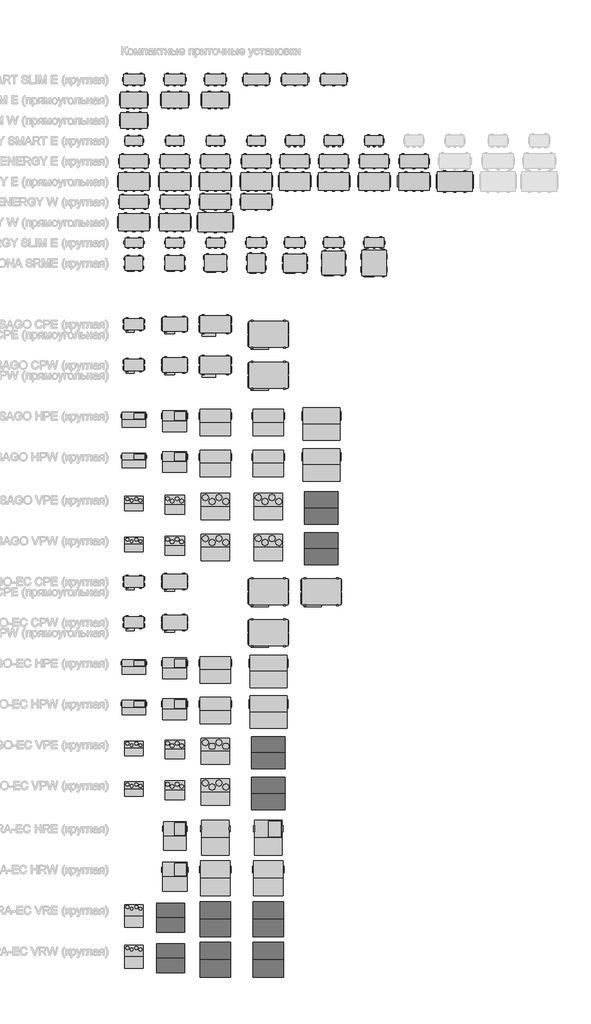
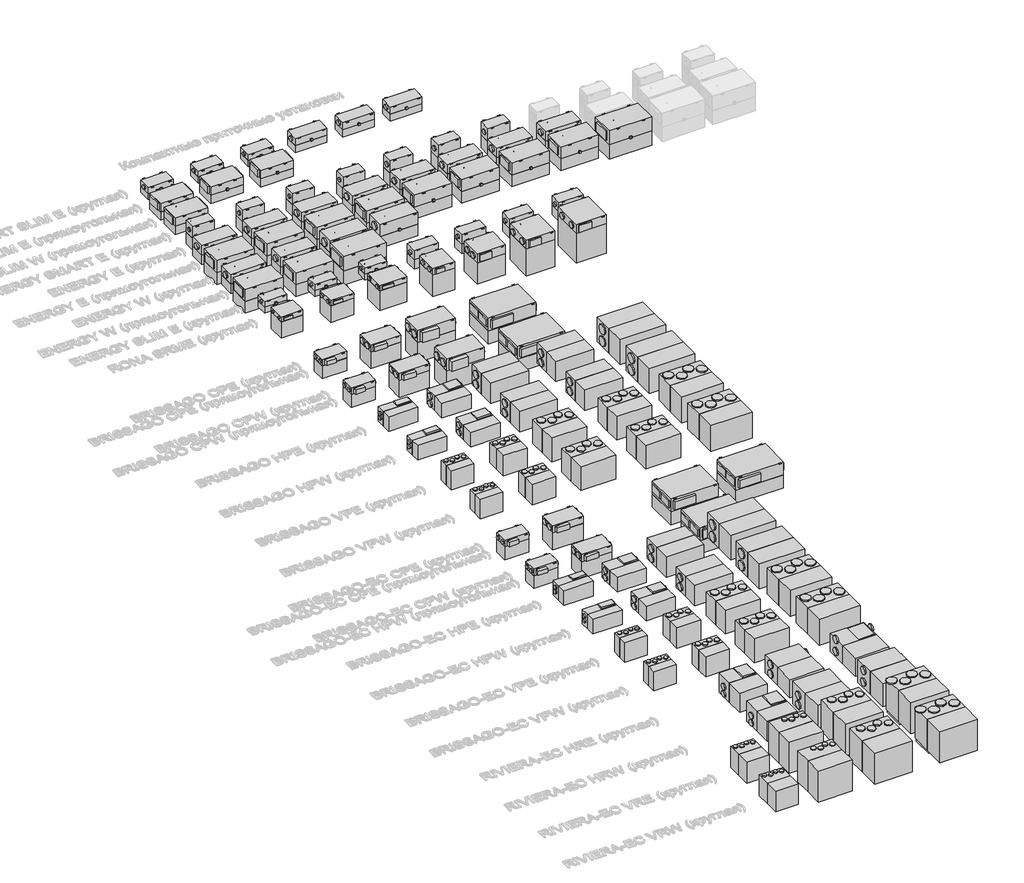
# One storey, part 1 of 28: 120 proxies.
"""IFC4 building model written with IfcOpenShell, lengths in millimetres."""

from ifc_helpers import new_model, si_unit, origin, place, context, project, spatial, transform, mapped, element, save
from components import mechanical_equipment_53d196b1, mechanical_equipment_57a579dd, mechanical_equipment_e5669056, mechanical_equipment_f87f4e95, mechanical_equipment_174d14ef, mechanical_equipment_83e87138, mechanical_equipment_9045a139, mechanical_equipment_a6caf436, mechanical_equipment_da869d93, mechanical_equipment_20e742c8, mechanical_equipment_f2c2758d, mechanical_equipment_004291be, mechanical_equipment_9406116b, mechanical_equipment_06ad50bb, mechanical_equipment_5558e5c0, mechanical_equipment_411f74db, mechanical_equipment_f99d62ba, mechanical_equipment_93a356b6, mechanical_equipment_433b63e0, mechanical_equipment_d0d0ea28, mechanical_equipment_e39d4b15, mechanical_equipment_af5c04b0, mechanical_equipment_fba3e411, mechanical_equipment_c8dcfe09, mechanical_equipment_7b883cb3, mechanical_equipment_9c104b6c, mechanical_equipment_83cae195, mechanical_equipment_fc167629, mechanical_equipment_29a00ad4, energy_e_2000_12_0_m1_ab2c2ec1, energy_e_4000_15_0_m1_56c008f9, energy_e_6000_22_5_m3_f49a07c8, energy_slim_500_e_1_2_b539ae45, energy_slim_800_e_12_0_e377578b, energy_smart_e_160_1_2_m1_94fbb1aa, energy_smart_e_200_3_0_m1_1592dbf7, energy_smart_slim_e_1100_15_0_m1_a4313444, energy_smart_slim_e_350_1_2_m1_bdb5f192, energy_smart_slim_e_700_2_4_m1_97cd10b6, energy_w_3000_m1_f00fbe06

model = new_model("IFC4")

# Units and contexts
model_context = context("Model", 3, world=origin())
ifc_project = project(units=[si_unit("LENGTHUNIT", "METRE", prefix="MILLI")], contexts=[model_context])

# Site, building, storey
site = spatial("IfcSite", under=ifc_project)
building = spatial("IfcBuilding", under=site)
storey = spatial("IfcBuildingStorey", under=building, Name="Уровень 1", Elevation=0.0)

# Proxies
placement = place(None, origin())
mechanical_equipment_shape = mechanical_equipment_53d196b1(model_context)
element("IfcBuildingElementProxy", 1, Name="ADSK_КПВУ RONA SRME_круглая : Rona SRME 180 H1", ObjectType="ADSK_КПВУ RONA SRME_круглая : Rona SRME 180 H1", at=placement, inside=storey, context=model_context, shape_type="MappedRepresentation", body=[
    mapped(mechanical_equipment_shape, transform((-20944.7242905, 13471.3067858, 0.0), x_axis=(1.0, 0.0, 0.0), y_axis=(0.0, 1.0, 0.0), z_axis=(0.0, 0.0, 1.0))),
])
mechanical_equipment_2_shape = mechanical_equipment_57a579dd(model_context)
element("IfcBuildingElementProxy", 2, Name="ADSK_КПВУ RONA SRME_круглая : Rona SRME 290 H1", ObjectType="ADSK_КПВУ RONA SRME_круглая : Rona SRME 290 H1", at=placement, inside=storey, context=model_context, shape_type="MappedRepresentation", body=[
    mapped(mechanical_equipment_2_shape, transform((-18944.7242905, 13471.3067858, 0.0), x_axis=(1.0, 0.0, 0.0), y_axis=(0.0, 1.0, 0.0), z_axis=(0.0, 0.0, 1.0))),
])
mechanical_equipment_3_shape = mechanical_equipment_e5669056(model_context)
element("IfcBuildingElementProxy", 3, Name="ADSK_КПВУ RONA SRME_круглая : Rona SRME 380 H1", ObjectType="ADSK_КПВУ RONA SRME_круглая : Rona SRME 380 H1", at=placement, inside=storey, context=model_context, shape_type="MappedRepresentation", body=[
    mapped(mechanical_equipment_3_shape, transform((-16944.7242905, 13471.3067858, 0.0), x_axis=(1.0, 0.0, 0.0), y_axis=(0.0, 1.0, 0.0), z_axis=(0.0, 0.0, 1.0))),
])
mechanical_equipment_4_shape = mechanical_equipment_f87f4e95(model_context)
element("IfcBuildingElementProxy", 4, Name="ADSK_КПВУ RONA SRME_круглая : Rona SRME 690 H1", ObjectType="ADSK_КПВУ RONA SRME_круглая : Rona SRME 690 H1", at=placement, inside=storey, context=model_context, shape_type="MappedRepresentation", body=[
    mapped(mechanical_equipment_4_shape, transform((-14944.7242905, 13471.3067858, 0.0), x_axis=(1.0, 0.0, 0.0), y_axis=(0.0, 1.0, 0.0), z_axis=(0.0, 0.0, 1.0))),
])
mechanical_equipment_5_shape = mechanical_equipment_174d14ef(model_context)
element("IfcBuildingElementProxy", 5, Name="ADSK_КПВУ RONA SRME_круглая : Rona SRME 910 H1", ObjectType="ADSK_КПВУ RONA SRME_круглая : Rona SRME 910 H1", at=placement, inside=storey, context=model_context, shape_type="MappedRepresentation", body=[
    mapped(mechanical_equipment_5_shape, transform((-13044.7242905, 13471.3067858, 0.0), x_axis=(1.0, 0.0, 0.0), y_axis=(0.0, 1.0, 0.0), z_axis=(0.0, 0.0, 1.0))),
])
mechanical_equipment_6_shape = mechanical_equipment_83e87138(model_context)
element("IfcBuildingElementProxy", 6, Name="ADSK_КПВУ RONA SRME_круглая : Rona SRME 1200 H1", ObjectType="ADSK_КПВУ RONA SRME_круглая : Rona SRME 1200 H1", at=placement, inside=storey, context=model_context, shape_type="MappedRepresentation", body=[
    mapped(mechanical_equipment_6_shape, transform((-11144.7242905, 13471.3067858, 0.0), x_axis=(1.0, 0.0, 0.0), y_axis=(0.0, 1.0, 0.0), z_axis=(0.0, 0.0, 1.0))),
])
mechanical_equipment_7_shape = mechanical_equipment_9045a139(model_context)
element("IfcBuildingElementProxy", 7, Name="ADSK_КПВУ RONA SRME_круглая : Rona SRME 1410 H1", ObjectType="ADSK_КПВУ RONA SRME_круглая : Rona SRME 1410 H1", at=placement, inside=storey, context=model_context, shape_type="MappedRepresentation", body=[
    mapped(mechanical_equipment_7_shape, transform((-9156.4750295, 13471.3067858, 0.0), x_axis=(1.0, 0.0, 0.0), y_axis=(0.0, 1.0, 0.0), z_axis=(0.0, 0.0, 1.0))),
])
mechanical_equipment_8_shape = mechanical_equipment_a6caf436(model_context)
element("IfcBuildingElementProxy", 8, Name="ADSK_КПВУ BRISSAGO CPE_прямоугольная : Brissago CPE 1500", ObjectType="ADSK_КПВУ BRISSAGO CPE_прямоугольная : Brissago CPE 1500", at=placement, inside=storey, context=model_context, shape_type="MappedRepresentation", body=[
    mapped(mechanical_equipment_8_shape, transform((-14344.7242905, 9971.3067858, 0.0), x_axis=(1.0, 0.0, 0.0), y_axis=(0.0, 1.0, 0.0), z_axis=(0.0, 0.0, 1.0))),
])
mechanical_equipment_9_shape = mechanical_equipment_da869d93(model_context)
element("IfcBuildingElementProxy", 9, Name="ADSK_КПВУ BRISSAGO CPE_круглая : Brissago CPE 450", ObjectType="ADSK_КПВУ BRISSAGO CPE_круглая : Brissago CPE 450", at=placement, inside=storey, context=model_context, shape_type="MappedRepresentation", body=[
    mapped(mechanical_equipment_9_shape, transform((-20944.7242905, 10471.3067858, 0.0), x_axis=(1.0, 0.0, 0.0), y_axis=(0.0, 1.0, 0.0), z_axis=(0.0, 0.0, 1.0))),
])
mechanical_equipment_10_shape = mechanical_equipment_20e742c8(model_context)
element("IfcBuildingElementProxy", 10, Name="ADSK_КПВУ BRISSAGO CPE_круглая : Brissago CPE 800", ObjectType="ADSK_КПВУ BRISSAGO CPE_круглая : Brissago CPE 800", at=placement, inside=storey, context=model_context, shape_type="MappedRepresentation", body=[
    mapped(mechanical_equipment_10_shape, transform((-18944.7242905, 10471.3067858, 0.0), x_axis=(1.0, 0.0, 0.0), y_axis=(0.0, 1.0, 0.0), z_axis=(0.0, 0.0, 1.0))),
])
mechanical_equipment_11_shape = mechanical_equipment_f2c2758d(model_context)
element("IfcBuildingElementProxy", 11, Name="ADSK_КПВУ BRISSAGO CPE_круглая : Brissago CPE 1000", ObjectType="ADSK_КПВУ BRISSAGO CPE_круглая : Brissago CPE 1000", at=placement, inside=storey, context=model_context, shape_type="MappedRepresentation", body=[
    mapped(mechanical_equipment_11_shape, transform((-16944.7242905, 10471.3067858, 0.0), x_axis=(1.0, 0.0, 0.0), y_axis=(0.0, 1.0, 0.0), z_axis=(0.0, 0.0, 1.0))),
])
element("IfcBuildingElementProxy", 12, Name="ADSK_КПВУ BRISSAGO CPW_прямоугольная : Brissago CPW 1500", ObjectType="ADSK_КПВУ BRISSAGO CPW_прямоугольная : Brissago CPW 1500", at=placement, inside=storey, context=model_context, shape_type="MappedRepresentation", body=[
    mapped(mechanical_equipment_8_shape, transform((-14344.7242905, 7971.2907411, 0.0), x_axis=(1.0, 0.0, 0.0), y_axis=(0.0, 1.0, 0.0), z_axis=(0.0, 0.0, 1.0))),
])
element("IfcBuildingElementProxy", 13, Name="ADSK_КПВУ BRISSAGO CPW_круглая : Brissago CPW 450", ObjectType="ADSK_КПВУ BRISSAGO CPW_круглая : Brissago CPW 450", at=placement, inside=storey, context=model_context, shape_type="MappedRepresentation", body=[
    mapped(mechanical_equipment_9_shape, transform((-20944.7242905, 8471.2907411, 0.0), x_axis=(1.0, 0.0, 0.0), y_axis=(0.0, 1.0, 0.0), z_axis=(0.0, 0.0, 1.0))),
])
element("IfcBuildingElementProxy", 14, Name="ADSK_КПВУ BRISSAGO CPW_круглая : Brissago CPW 800", ObjectType="ADSK_КПВУ BRISSAGO CPW_круглая : Brissago CPW 800", at=placement, inside=storey, context=model_context, shape_type="MappedRepresentation", body=[
    mapped(mechanical_equipment_10_shape, transform((-18944.7242905, 8471.2907411, 0.0), x_axis=(1.0, 0.0, 0.0), y_axis=(0.0, 1.0, 0.0), z_axis=(0.0, 0.0, 1.0))),
])
element("IfcBuildingElementProxy", 15, Name="ADSK_КПВУ BRISSAGO CPW_круглая : Brissago CPW 1000", ObjectType="ADSK_КПВУ BRISSAGO CPW_круглая : Brissago CPW 1000", at=placement, inside=storey, context=model_context, shape_type="MappedRepresentation", body=[
    mapped(mechanical_equipment_11_shape, transform((-16944.7242905, 8471.2907411, 0.0), x_axis=(1.0, 0.0, 0.0), y_axis=(0.0, 1.0, 0.0), z_axis=(0.0, 0.0, 1.0))),
])
mechanical_equipment_12_shape = mechanical_equipment_004291be(model_context)
element("IfcBuildingElementProxy", 16, Name="ADSK_КПВУ BRISSAGO HPW_круглая : Brissago HPW 450", ObjectType="ADSK_КПВУ BRISSAGO HPW_круглая : Brissago HPW 450", at=placement, inside=storey, context=model_context, shape_type="MappedRepresentation", body=[
    mapped(mechanical_equipment_12_shape, transform((-20944.7242905, 3971.3067858, 0.0), x_axis=(1.0, 0.0, 0.0), y_axis=(0.0, 1.0, 0.0), z_axis=(0.0, 0.0, 1.0))),
])
mechanical_equipment_13_shape = mechanical_equipment_9406116b(model_context)
element("IfcBuildingElementProxy", 17, Name="ADSK_КПВУ BRISSAGO HPW_круглая : Brissago HPW 800", ObjectType="ADSK_КПВУ BRISSAGO HPW_круглая : Brissago HPW 800", at=placement, inside=storey, context=model_context, shape_type="MappedRepresentation", body=[
    mapped(mechanical_equipment_13_shape, transform((-18944.7242905, 3971.3067858, 0.0), x_axis=(1.0, 0.0, 0.0), y_axis=(0.0, 1.0, 0.0), z_axis=(0.0, 0.0, 1.0))),
])
mechanical_equipment_14_shape = mechanical_equipment_06ad50bb(model_context)
element("IfcBuildingElementProxy", 18, Name="ADSK_КПВУ BRISSAGO HPW_круглая : Brissago HPW 1000", ObjectType="ADSK_КПВУ BRISSAGO HPW_круглая : Brissago HPW 1000", at=placement, inside=storey, context=model_context, shape_type="MappedRepresentation", body=[
    mapped(mechanical_equipment_14_shape, transform((-16944.7242905, 3971.3067858, 0.0), x_axis=(1.0, 0.0, 0.0), y_axis=(0.0, 1.0, 0.0), z_axis=(0.0, 0.0, 1.0))),
])
element("IfcBuildingElementProxy", 19, Name="ADSK_КПВУ BRISSAGO HPW_круглая : Brissago HPW 1500", ObjectType="ADSK_КПВУ BRISSAGO HPW_круглая : Brissago HPW 1500", at=placement, inside=storey, context=model_context, shape_type="MappedRepresentation", body=[
    mapped(mechanical_equipment_14_shape, transform((-14344.7242905, 3971.3067858, 0.0), x_axis=(1.0, 0.0, 0.0), y_axis=(0.0, 1.0, 0.0), z_axis=(0.0, 0.0, 1.0))),
])
mechanical_equipment_15_shape = mechanical_equipment_5558e5c0(model_context)
element("IfcBuildingElementProxy", 20, Name="ADSK_КПВУ BRISSAGO HPW_круглая : Brissago HPW 2000", ObjectType="ADSK_КПВУ BRISSAGO HPW_круглая : Brissago HPW 2000", at=placement, inside=storey, context=model_context, shape_type="MappedRepresentation", body=[
    mapped(mechanical_equipment_15_shape, transform((-11744.7242905, 3971.3067858, 0.0), x_axis=(1.0, 0.0, 0.0), y_axis=(0.0, 1.0, 0.0), z_axis=(0.0, 0.0, 1.0))),
])
element("IfcBuildingElementProxy", 21, Name="ADSK_КПВУ BRISSAGO HPE_круглая : Brissago HPE 450", ObjectType="ADSK_КПВУ BRISSAGO HPE_круглая : Brissago HPE 450", at=placement, inside=storey, context=model_context, shape_type="MappedRepresentation", body=[
    mapped(mechanical_equipment_12_shape, transform((-20944.7242905, 5971.3067858, 0.0), x_axis=(1.0, 0.0, 0.0), y_axis=(0.0, 1.0, 0.0), z_axis=(0.0, 0.0, 1.0))),
])
element("IfcBuildingElementProxy", 22, Name="ADSK_КПВУ BRISSAGO HPE_круглая : Brissago HPE 800", ObjectType="ADSK_КПВУ BRISSAGO HPE_круглая : Brissago HPE 800", at=placement, inside=storey, context=model_context, shape_type="MappedRepresentation", body=[
    mapped(mechanical_equipment_13_shape, transform((-18944.7242905, 5971.3067858, 0.0), x_axis=(1.0, 0.0, 0.0), y_axis=(0.0, 1.0, 0.0), z_axis=(0.0, 0.0, 1.0))),
])
element("IfcBuildingElementProxy", 23, Name="ADSK_КПВУ BRISSAGO HPE_круглая : Brissago HPE 1000", ObjectType="ADSK_КПВУ BRISSAGO HPE_круглая : Brissago HPE 1000", at=placement, inside=storey, context=model_context, shape_type="MappedRepresentation", body=[
    mapped(mechanical_equipment_14_shape, transform((-16944.7242905, 5971.3067858, 0.0), x_axis=(1.0, 0.0, 0.0), y_axis=(0.0, 1.0, 0.0), z_axis=(0.0, 0.0, 1.0))),
])
element("IfcBuildingElementProxy", 24, Name="ADSK_КПВУ BRISSAGO HPE_круглая : Brissago HPE 1500", ObjectType="ADSK_КПВУ BRISSAGO HPE_круглая : Brissago HPE 1500", at=placement, inside=storey, context=model_context, shape_type="MappedRepresentation", body=[
    mapped(mechanical_equipment_14_shape, transform((-14344.7242905, 5971.3067858, 0.0), x_axis=(1.0, 0.0, 0.0), y_axis=(0.0, 1.0, 0.0), z_axis=(0.0, 0.0, 1.0))),
])
element("IfcBuildingElementProxy", 25, Name="ADSK_КПВУ BRISSAGO HPE_круглая : Brissago HPE 2000", ObjectType="ADSK_КПВУ BRISSAGO HPE_круглая : Brissago HPE 2000", at=placement, inside=storey, context=model_context, shape_type="MappedRepresentation", body=[
    mapped(mechanical_equipment_15_shape, transform((-11744.7242905, 5971.3067858, 0.0), x_axis=(1.0, 0.0, 0.0), y_axis=(0.0, 1.0, 0.0), z_axis=(0.0, 0.0, 1.0))),
])
mechanical_equipment_16_shape = mechanical_equipment_411f74db(model_context)
element("IfcBuildingElementProxy", 26, Name="ADSK_КПВУ BRISSAGO VPW_круглая : Brissago VPW 450", ObjectType="ADSK_КПВУ BRISSAGO VPW_круглая : Brissago VPW 450", at=placement, inside=storey, context=model_context, shape_type="MappedRepresentation", body=[
    mapped(mechanical_equipment_16_shape, transform((-20944.7242905, -148.6932142, 0.0), x_axis=(1.0, 0.0, 0.0), y_axis=(0.0, 1.0, 0.0), z_axis=(0.0, 0.0, 1.0))),
])
mechanical_equipment_17_shape = mechanical_equipment_f99d62ba(model_context)
element("IfcBuildingElementProxy", 27, Name="ADSK_КПВУ BRISSAGO VPW_круглая : Brissago VPW 800", ObjectType="ADSK_КПВУ BRISSAGO VPW_круглая : Brissago VPW 800", at=placement, inside=storey, context=model_context, shape_type="MappedRepresentation", body=[
    mapped(mechanical_equipment_17_shape, transform((-18944.7242905, -148.6932142, 0.0), x_axis=(1.0, 0.0, 0.0), y_axis=(0.0, 1.0, 0.0), z_axis=(0.0, 0.0, 1.0))),
])
mechanical_equipment_18_shape = mechanical_equipment_93a356b6(model_context)
element("IfcBuildingElementProxy", 28, Name="ADSK_КПВУ BRISSAGO VPW_круглая : Brissago VPW 1000", ObjectType="ADSK_КПВУ BRISSAGO VPW_круглая : Brissago VPW 1000", at=placement, inside=storey, context=model_context, shape_type="MappedRepresentation", body=[
    mapped(mechanical_equipment_18_shape, transform((-16944.7242905, -148.6932142, 0.0), x_axis=(1.0, 0.0, 0.0), y_axis=(0.0, 1.0, 0.0), z_axis=(0.0, 0.0, 1.0))),
])
element("IfcBuildingElementProxy", 29, Name="ADSK_КПВУ BRISSAGO VPW_круглая : Brissago VPW 1500", ObjectType="ADSK_КПВУ BRISSAGO VPW_круглая : Brissago VPW 1500", at=placement, inside=storey, context=model_context, shape_type="MappedRepresentation", body=[
    mapped(mechanical_equipment_18_shape, transform((-14344.7242905, -148.6932142, 0.0), x_axis=(1.0, 0.0, 0.0), y_axis=(0.0, 1.0, 0.0), z_axis=(0.0, 0.0, 1.0))),
])
mechanical_equipment_19_shape = mechanical_equipment_433b63e0(model_context)
element("IfcBuildingElementProxy", 30, Name="ADSK_КПВУ BRISSAGO VPW_круглая : Brissago VPW 2000", ObjectType="ADSK_КПВУ BRISSAGO VPW_круглая : Brissago VPW 2000", at=placement, inside=storey, context=model_context, shape_type="MappedRepresentation", body=[
    mapped(mechanical_equipment_19_shape, transform((-11744.7242905, -148.6932142, 0.0), x_axis=(1.0, 0.0, 0.0), y_axis=(0.0, 1.0, 0.0), z_axis=(0.0, 0.0, 1.0))),
])
element("IfcBuildingElementProxy", 31, Name="ADSK_КПВУ BRISSAGO VPE_круглая : Brissago VPE 450", ObjectType="ADSK_КПВУ BRISSAGO VPE_круглая : Brissago VPE 450", at=placement, inside=storey, context=model_context, shape_type="MappedRepresentation", body=[
    mapped(mechanical_equipment_16_shape, transform((-20944.7242905, 1851.3067858, 0.0), x_axis=(1.0, 0.0, 0.0), y_axis=(0.0, 1.0, 0.0), z_axis=(0.0, 0.0, 1.0))),
])
element("IfcBuildingElementProxy", 32, Name="ADSK_КПВУ BRISSAGO VPE_круглая : Brissago VPE 800", ObjectType="ADSK_КПВУ BRISSAGO VPE_круглая : Brissago VPE 800", at=placement, inside=storey, context=model_context, shape_type="MappedRepresentation", body=[
    mapped(mechanical_equipment_17_shape, transform((-18944.7242905, 1851.3067858, 0.0), x_axis=(1.0, 0.0, 0.0), y_axis=(0.0, 1.0, 0.0), z_axis=(0.0, 0.0, 1.0))),
])
element("IfcBuildingElementProxy", 33, Name="ADSK_КПВУ BRISSAGO VPE_круглая : Brissago VPE 1000", ObjectType="ADSK_КПВУ BRISSAGO VPE_круглая : Brissago VPE 1000", at=placement, inside=storey, context=model_context, shape_type="MappedRepresentation", body=[
    mapped(mechanical_equipment_18_shape, transform((-16944.7242905, 1851.3067858, 0.0), x_axis=(1.0, 0.0, 0.0), y_axis=(0.0, 1.0, 0.0), z_axis=(0.0, 0.0, 1.0))),
])
element("IfcBuildingElementProxy", 34, Name="ADSK_КПВУ BRISSAGO VPE_круглая : Brissago VPE 1500", ObjectType="ADSK_КПВУ BRISSAGO VPE_круглая : Brissago VPE 1500", at=placement, inside=storey, context=model_context, shape_type="MappedRepresentation", body=[
    mapped(mechanical_equipment_18_shape, transform((-14344.7242905, 1851.3067858, 0.0), x_axis=(1.0, 0.0, 0.0), y_axis=(0.0, 1.0, 0.0), z_axis=(0.0, 0.0, 1.0))),
])
element("IfcBuildingElementProxy", 35, Name="ADSK_КПВУ BRISSAGO VPE_круглая : Brissago VPE 2000", ObjectType="ADSK_КПВУ BRISSAGO VPE_круглая : Brissago VPE 2000", at=placement, inside=storey, context=model_context, shape_type="MappedRepresentation", body=[
    mapped(mechanical_equipment_19_shape, transform((-11744.7242905, 1851.3067858, 0.0), x_axis=(1.0, 0.0, 0.0), y_axis=(0.0, 1.0, 0.0), z_axis=(0.0, 0.0, 1.0))),
])
element("IfcBuildingElementProxy", 36, Name="ADSK_КПВУ BRISSAGO-EC CPE_прямоугольная : Brissago-EC CPE 1400", ObjectType="ADSK_КПВУ BRISSAGO-EC CPE_прямоугольная : Brissago-EC CPE 1400", at=placement, inside=storey, context=model_context, shape_type="MappedRepresentation", body=[
    mapped(mechanical_equipment_8_shape, transform((-14344.7242905, -2648.6932142, 0.0), x_axis=(1.0, 0.0, 0.0), y_axis=(0.0, 1.0, 0.0), z_axis=(0.0, 0.0, 1.0))),
])
element("IfcBuildingElementProxy", 37, Name="ADSK_КПВУ BRISSAGO-EC CPE_прямоугольная : Brissago-EC CPE 2200", ObjectType="ADSK_КПВУ BRISSAGO-EC CPE_прямоугольная : Brissago-EC CPE 2200", at=placement, inside=storey, context=model_context, shape_type="MappedRepresentation", body=[
    mapped(mechanical_equipment_8_shape, transform((-11744.7242905, -2648.6932142, 0.0), x_axis=(1.0, 0.0, 0.0), y_axis=(0.0, 1.0, 0.0), z_axis=(0.0, 0.0, 1.0))),
])
element("IfcBuildingElementProxy", 38, Name="ADSK_КПВУ BRISSAGO-EC CPE_круглая : Brissago-EC CPE 450", ObjectType="ADSK_КПВУ BRISSAGO-EC CPE_круглая : Brissago-EC CPE 450", at=placement, inside=storey, context=model_context, shape_type="MappedRepresentation", body=[
    mapped(mechanical_equipment_9_shape, transform((-20944.7242905, -2148.6932142, 0.0), x_axis=(1.0, 0.0, 0.0), y_axis=(0.0, 1.0, 0.0), z_axis=(0.0, 0.0, 1.0))),
])
element("IfcBuildingElementProxy", 39, Name="ADSK_КПВУ BRISSAGO-EC CPE_круглая : Brissago-EC CPE 850", ObjectType="ADSK_КПВУ BRISSAGO-EC CPE_круглая : Brissago-EC CPE 850", at=placement, inside=storey, context=model_context, shape_type="MappedRepresentation", body=[
    mapped(mechanical_equipment_10_shape, transform((-18944.7242905, -2148.6932142, 0.0), x_axis=(1.0, 0.0, 0.0), y_axis=(0.0, 1.0, 0.0), z_axis=(0.0, 0.0, 1.0))),
])
element("IfcBuildingElementProxy", 40, Name="ADSK_КПВУ BRISSAGO-EC HPW_круглая : Brissago-EC HPW 450", ObjectType="ADSK_КПВУ BRISSAGO-EC HPW_круглая : Brissago-EC HPW 450", at=placement, inside=storey, context=model_context, shape_type="MappedRepresentation", body=[
    mapped(mechanical_equipment_12_shape, transform((-20944.7242905, -8148.7092589, 0.0), x_axis=(1.0, 0.0, 0.0), y_axis=(0.0, 1.0, 0.0), z_axis=(0.0, 0.0, 1.0))),
])
element("IfcBuildingElementProxy", 41, Name="ADSK_КПВУ BRISSAGO-EC HPW_круглая : Brissago-EC HPW 850", ObjectType="ADSK_КПВУ BRISSAGO-EC HPW_круглая : Brissago-EC HPW 850", at=placement, inside=storey, context=model_context, shape_type="MappedRepresentation", body=[
    mapped(mechanical_equipment_13_shape, transform((-18944.7242905, -8148.7092589, 0.0), x_axis=(1.0, 0.0, 0.0), y_axis=(0.0, 1.0, 0.0), z_axis=(0.0, 0.0, 1.0))),
])
element("IfcBuildingElementProxy", 42, Name="ADSK_КПВУ BRISSAGO-EC HPW_круглая : Brissago-EC HPW 1400", ObjectType="ADSK_КПВУ BRISSAGO-EC HPW_круглая : Brissago-EC HPW 1400", at=placement, inside=storey, context=model_context, shape_type="MappedRepresentation", body=[
    mapped(mechanical_equipment_14_shape, transform((-16944.7242905, -8148.7092589, 0.0), x_axis=(1.0, 0.0, 0.0), y_axis=(0.0, 1.0, 0.0), z_axis=(0.0, 0.0, 1.0))),
])
element("IfcBuildingElementProxy", 43, Name="ADSK_КПВУ BRISSAGO-EC HPW_круглая : Brissago-EC HPW 2200", ObjectType="ADSK_КПВУ BRISSAGO-EC HPW_круглая : Brissago-EC HPW 2200", at=placement, inside=storey, context=model_context, shape_type="MappedRepresentation", body=[
    mapped(mechanical_equipment_15_shape, transform((-14344.7242905, -8148.7092589, 0.0), x_axis=(1.0, 0.0, 0.0), y_axis=(0.0, 1.0, 0.0), z_axis=(0.0, 0.0, 1.0))),
])
element("IfcBuildingElementProxy", 44, Name="ADSK_КПВУ BRISSAGO-EC HPE_круглая : Brissago-EC HPE 450", ObjectType="ADSK_КПВУ BRISSAGO-EC HPE_круглая : Brissago-EC HPE 450", at=placement, inside=storey, context=model_context, shape_type="MappedRepresentation", body=[
    mapped(mechanical_equipment_12_shape, transform((-20944.7242905, -6148.7092589, 0.0), x_axis=(1.0, 0.0, 0.0), y_axis=(0.0, 1.0, 0.0), z_axis=(0.0, 0.0, 1.0))),
])
element("IfcBuildingElementProxy", 45, Name="ADSK_КПВУ BRISSAGO-EC HPE_круглая : Brissago-EC HPE 850", ObjectType="ADSK_КПВУ BRISSAGO-EC HPE_круглая : Brissago-EC HPE 850", at=placement, inside=storey, context=model_context, shape_type="MappedRepresentation", body=[
    mapped(mechanical_equipment_13_shape, transform((-18944.7242905, -6148.7092589, 0.0), x_axis=(1.0, 0.0, 0.0), y_axis=(0.0, 1.0, 0.0), z_axis=(0.0, 0.0, 1.0))),
])
element("IfcBuildingElementProxy", 46, Name="ADSK_КПВУ BRISSAGO-EC HPE_круглая : Brissago-EC HPE 1400", ObjectType="ADSK_КПВУ BRISSAGO-EC HPE_круглая : Brissago-EC HPE 1400", at=placement, inside=storey, context=model_context, shape_type="MappedRepresentation", body=[
    mapped(mechanical_equipment_14_shape, transform((-16944.7242905, -6148.7092589, 0.0), x_axis=(1.0, 0.0, 0.0), y_axis=(0.0, 1.0, 0.0), z_axis=(0.0, 0.0, 1.0))),
])
element("IfcBuildingElementProxy", 47, Name="ADSK_КПВУ BRISSAGO-EC HPE_круглая : Brissago-EC HPE 2200", ObjectType="ADSK_КПВУ BRISSAGO-EC HPE_круглая : Brissago-EC HPE 2200", at=placement, inside=storey, context=model_context, shape_type="MappedRepresentation", body=[
    mapped(mechanical_equipment_15_shape, transform((-14344.7242905, -6148.7092589, 0.0), x_axis=(1.0, 0.0, 0.0), y_axis=(0.0, 1.0, 0.0), z_axis=(0.0, 0.0, 1.0))),
])
element("IfcBuildingElementProxy", 48, Name="ADSK_КПВУ BRISSAGO-EC CPW_прямоугольная : Brissago-EC CPW 1400", ObjectType="ADSK_КПВУ BRISSAGO-EC CPW_прямоугольная : Brissago-EC CPW 1400", at=placement, inside=storey, context=model_context, shape_type="MappedRepresentation", body=[
    mapped(mechanical_equipment_8_shape, transform((-14344.7242905, -4648.7092589, 0.0), x_axis=(1.0, 0.0, 0.0), y_axis=(0.0, 1.0, 0.0), z_axis=(0.0, 0.0, 1.0))),
])
element("IfcBuildingElementProxy", 49, Name="ADSK_КПВУ BRISSAGO-EC CPW_круглая : Brissago-EC CPW 450", ObjectType="ADSK_КПВУ BRISSAGO-EC CPW_круглая : Brissago-EC CPW 450", at=placement, inside=storey, context=model_context, shape_type="MappedRepresentation", body=[
    mapped(mechanical_equipment_9_shape, transform((-20944.7242905, -4148.7092589, 0.0), x_axis=(1.0, 0.0, 0.0), y_axis=(0.0, 1.0, 0.0), z_axis=(0.0, 0.0, 1.0))),
])
element("IfcBuildingElementProxy", 50, Name="ADSK_КПВУ BRISSAGO-EC CPW_круглая : Brissago-EC CPW 850", ObjectType="ADSK_КПВУ BRISSAGO-EC CPW_круглая : Brissago-EC CPW 850", at=placement, inside=storey, context=model_context, shape_type="MappedRepresentation", body=[
    mapped(mechanical_equipment_10_shape, transform((-18944.7242905, -4148.7092589, 0.0), x_axis=(1.0, 0.0, 0.0), y_axis=(0.0, 1.0, 0.0), z_axis=(0.0, 0.0, 1.0))),
])
element("IfcBuildingElementProxy", 51, Name="ADSK_КПВУ BRISSAGO-EC VPW_круглая : Brissago-EC VPW 450", ObjectType="ADSK_КПВУ BRISSAGO-EC VPW_круглая : Brissago-EC VPW 450", at=placement, inside=storey, context=model_context, shape_type="MappedRepresentation", body=[
    mapped(mechanical_equipment_16_shape, transform((-20944.7242905, -12148.7253035, 0.0), x_axis=(1.0, 0.0, 0.0), y_axis=(0.0, 1.0, 0.0), z_axis=(0.0, 0.0, 1.0))),
])
element("IfcBuildingElementProxy", 52, Name="ADSK_КПВУ BRISSAGO-EC VPW_круглая : Brissago-EC VPW 800", ObjectType="ADSK_КПВУ BRISSAGO-EC VPW_круглая : Brissago-EC VPW 800", at=placement, inside=storey, context=model_context, shape_type="MappedRepresentation", body=[
    mapped(mechanical_equipment_17_shape, transform((-18944.7242905, -12148.7253035, 0.0), x_axis=(1.0, 0.0, 0.0), y_axis=(0.0, 1.0, 0.0), z_axis=(0.0, 0.0, 1.0))),
])
element("IfcBuildingElementProxy", 53, Name="ADSK_КПВУ BRISSAGO-EC VPW_круглая : Brissago-EC VPW 1500", ObjectType="ADSK_КПВУ BRISSAGO-EC VPW_круглая : Brissago-EC VPW 1500", at=placement, inside=storey, context=model_context, shape_type="MappedRepresentation", body=[
    mapped(mechanical_equipment_18_shape, transform((-16944.7242905, -12148.7253035, 0.0), x_axis=(1.0, 0.0, 0.0), y_axis=(0.0, 1.0, 0.0), z_axis=(0.0, 0.0, 1.0))),
])
element("IfcBuildingElementProxy", 54, Name="ADSK_КПВУ BRISSAGO-EC VPW_круглая : Brissago-EC VPW 2000", ObjectType="ADSK_КПВУ BRISSAGO-EC VPW_круглая : Brissago-EC VPW 2000", at=placement, inside=storey, context=model_context, shape_type="MappedRepresentation", body=[
    mapped(mechanical_equipment_19_shape, transform((-14344.7242905, -12148.7253035, 0.0), x_axis=(1.0, 0.0, 0.0), y_axis=(0.0, 1.0, 0.0), z_axis=(0.0, 0.0, 1.0))),
])
element("IfcBuildingElementProxy", 55, Name="ADSK_КПВУ BRISSAGO-EC VPE_круглая : Brissago-EC VPE 450", ObjectType="ADSK_КПВУ BRISSAGO-EC VPE_круглая : Brissago-EC VPE 450", at=placement, inside=storey, context=model_context, shape_type="MappedRepresentation", body=[
    mapped(mechanical_equipment_16_shape, transform((-20944.7242905, -10148.7092589, 0.0), x_axis=(1.0, 0.0, 0.0), y_axis=(0.0, 1.0, 0.0), z_axis=(0.0, 0.0, 1.0))),
])
element("IfcBuildingElementProxy", 56, Name="ADSK_КПВУ BRISSAGO-EC VPE_круглая : Brissago-EC VPE 800", ObjectType="ADSK_КПВУ BRISSAGO-EC VPE_круглая : Brissago-EC VPE 800", at=placement, inside=storey, context=model_context, shape_type="MappedRepresentation", body=[
    mapped(mechanical_equipment_17_shape, transform((-18944.7242905, -10148.7092589, 0.0), x_axis=(1.0, 0.0, 0.0), y_axis=(0.0, 1.0, 0.0), z_axis=(0.0, 0.0, 1.0))),
])
element("IfcBuildingElementProxy", 57, Name="ADSK_КПВУ BRISSAGO-EC VPE_круглая : Brissago-EC VPE 1500", ObjectType="ADSK_КПВУ BRISSAGO-EC VPE_круглая : Brissago-EC VPE 1500", at=placement, inside=storey, context=model_context, shape_type="MappedRepresentation", body=[
    mapped(mechanical_equipment_18_shape, transform((-16944.7242905, -10148.7092589, 0.0), x_axis=(1.0, 0.0, 0.0), y_axis=(0.0, 1.0, 0.0), z_axis=(0.0, 0.0, 1.0))),
])
element("IfcBuildingElementProxy", 58, Name="ADSK_КПВУ BRISSAGO-EC VPE_круглая : Brissago-EC VPE 2000", ObjectType="ADSK_КПВУ BRISSAGO-EC VPE_круглая : Brissago-EC VPE 2000", at=placement, inside=storey, context=model_context, shape_type="MappedRepresentation", body=[
    mapped(mechanical_equipment_19_shape, transform((-14344.7242905, -10148.7092589, 0.0), x_axis=(1.0, 0.0, 0.0), y_axis=(0.0, 1.0, 0.0), z_axis=(0.0, 0.0, 1.0))),
])
mechanical_equipment_20_shape = mechanical_equipment_d0d0ea28(model_context)
element("IfcBuildingElementProxy", 59, Name="ADSK_КПВУ RIVIERA-EC VRE_круглая : Riviera-EC VRE 450", ObjectType="ADSK_КПВУ RIVIERA-EC VRE_круглая : Riviera-EC VRE 450", at=placement, inside=storey, context=model_context, shape_type="MappedRepresentation", body=[
    mapped(mechanical_equipment_20_shape, transform((-20944.7242905, -18268.7413481, 0.0), x_axis=(1.0, 0.0, 0.0), y_axis=(0.0, 1.0, 0.0), z_axis=(0.0, 0.0, 1.0))),
])
mechanical_equipment_21_shape = mechanical_equipment_e39d4b15(model_context)
element("IfcBuildingElementProxy", 60, Name="ADSK_КПВУ RIVIERA-EC VRE_круглая : Riviera-EC VRE 850", ObjectType="ADSK_КПВУ RIVIERA-EC VRE_круглая : Riviera-EC VRE 850", at=placement, inside=storey, context=model_context, shape_type="MappedRepresentation", body=[
    mapped(mechanical_equipment_21_shape, transform((-19144.7242905, -18268.7413481, 0.0), x_axis=(1.0, 0.0, 0.0), y_axis=(0.0, 1.0, 0.0), z_axis=(0.0, 0.0, 1.0))),
])
mechanical_equipment_22_shape = mechanical_equipment_af5c04b0(model_context)
element("IfcBuildingElementProxy", 61, Name="ADSK_КПВУ RIVIERA-EC VRE_круглая : Riviera-EC VRE 1400", ObjectType="ADSK_КПВУ RIVIERA-EC VRE_круглая : Riviera-EC VRE 1400", at=placement, inside=storey, context=model_context, shape_type="MappedRepresentation", body=[
    mapped(mechanical_equipment_22_shape, transform((-16944.7242905, -18268.7413481, 0.0), x_axis=(1.0, 0.0, 0.0), y_axis=(0.0, 1.0, 0.0), z_axis=(0.0, 0.0, 1.0))),
])
mechanical_equipment_23_shape = mechanical_equipment_fba3e411(model_context)
element("IfcBuildingElementProxy", 62, Name="ADSK_КПВУ RIVIERA-EC VRE_круглая : Riviera-EC VRE 2200", ObjectType="ADSK_КПВУ RIVIERA-EC VRE_круглая : Riviera-EC VRE 2200", at=placement, inside=storey, context=model_context, shape_type="MappedRepresentation", body=[
    mapped(mechanical_equipment_23_shape, transform((-14344.7242905, -18268.7413481, 0.0), x_axis=(1.0, 0.0, 0.0), y_axis=(0.0, 1.0, 0.0), z_axis=(0.0, 0.0, 1.0))),
])
element("IfcBuildingElementProxy", 63, Name="ADSK_КПВУ RIVIERA-EC VRW_круглая : Riviera-EC VRW 450", ObjectType="ADSK_КПВУ RIVIERA-EC VRW_круглая : Riviera-EC VRW 450", at=placement, inside=storey, context=model_context, shape_type="MappedRepresentation", body=[
    mapped(mechanical_equipment_20_shape, transform((-20944.7242905, -20268.7413481, 0.0), x_axis=(1.0, 0.0, 0.0), y_axis=(0.0, 1.0, 0.0), z_axis=(0.0, 0.0, 1.0))),
])
element("IfcBuildingElementProxy", 64, Name="ADSK_КПВУ RIVIERA-EC VRW_круглая : Riviera-EC VRW 850", ObjectType="ADSK_КПВУ RIVIERA-EC VRW_круглая : Riviera-EC VRW 850", at=placement, inside=storey, context=model_context, shape_type="MappedRepresentation", body=[
    mapped(mechanical_equipment_21_shape, transform((-19144.7242905, -20268.7413481, 0.0), x_axis=(1.0, 0.0, 0.0), y_axis=(0.0, 1.0, 0.0), z_axis=(0.0, 0.0, 1.0))),
])
element("IfcBuildingElementProxy", 65, Name="ADSK_КПВУ RIVIERA-EC VRW_круглая : Riviera-EC VRW 1400", ObjectType="ADSK_КПВУ RIVIERA-EC VRW_круглая : Riviera-EC VRW 1400", at=placement, inside=storey, context=model_context, shape_type="MappedRepresentation", body=[
    mapped(mechanical_equipment_22_shape, transform((-16944.7242905, -20268.7413481, 0.0), x_axis=(1.0, 0.0, 0.0), y_axis=(0.0, 1.0, 0.0), z_axis=(0.0, 0.0, 1.0))),
])
element("IfcBuildingElementProxy", 66, Name="ADSK_КПВУ RIVIERA-EC VRW_круглая : Riviera-EC VRW 2200", ObjectType="ADSK_КПВУ RIVIERA-EC VRW_круглая : Riviera-EC VRW 2200", at=placement, inside=storey, context=model_context, shape_type="MappedRepresentation", body=[
    mapped(mechanical_equipment_23_shape, transform((-14344.7242905, -20268.7413481, 0.0), x_axis=(1.0, 0.0, 0.0), y_axis=(0.0, 1.0, 0.0), z_axis=(0.0, 0.0, 1.0))),
])
mechanical_equipment_24_shape = mechanical_equipment_c8dcfe09(model_context)
element("IfcBuildingElementProxy", 67, Name="ADSK_КПВУ RIVIERA-EC HRE_круглая : Riviera-EC HRE 850", ObjectType="ADSK_КПВУ RIVIERA-EC HRE_круглая : Riviera-EC HRE 850", at=placement, inside=storey, context=model_context, shape_type="MappedRepresentation", body=[
    mapped(mechanical_equipment_24_shape, transform((-18944.7242905, -14268.7253035, 0.0), x_axis=(1.0, 0.0, 0.0), y_axis=(0.0, 1.0, 0.0), z_axis=(0.0, 0.0, 1.0))),
])
mechanical_equipment_25_shape = mechanical_equipment_7b883cb3(model_context)
element("IfcBuildingElementProxy", 68, Name="ADSK_КПВУ RIVIERA-EC HRE_круглая : Riviera-EC HRE 1400", ObjectType="ADSK_КПВУ RIVIERA-EC HRE_круглая : Riviera-EC HRE 1400", at=placement, inside=storey, context=model_context, shape_type="MappedRepresentation", body=[
    mapped(mechanical_equipment_25_shape, transform((-16944.7242905, -14268.7253035, 0.0), x_axis=(1.0, 0.0, 0.0), y_axis=(0.0, 1.0, 0.0), z_axis=(0.0, 0.0, 1.0))),
])
mechanical_equipment_26_shape = mechanical_equipment_9c104b6c(model_context)
element("IfcBuildingElementProxy", 69, Name="ADSK_КПВУ RIVIERA-EC HRE_круглая : Riviera-EC HRE 2200", ObjectType="ADSK_КПВУ RIVIERA-EC HRE_круглая : Riviera-EC HRE 2200", at=placement, inside=storey, context=model_context, shape_type="MappedRepresentation", body=[
    mapped(mechanical_equipment_26_shape, transform((-14344.7242905, -14268.7253035, 0.0), x_axis=(1.0, 0.0, 0.0), y_axis=(0.0, 1.0, 0.0), z_axis=(0.0, 0.0, 1.0))),
])
mechanical_equipment_27_shape = mechanical_equipment_83cae195(model_context)
element("IfcBuildingElementProxy", 70, Name="ADSK_КПВУ RIVIERA-EC HRW_круглая : Riviera-EC HRW 850", ObjectType="ADSK_КПВУ RIVIERA-EC HRW_круглая : Riviera-EC HRW 850", at=placement, inside=storey, context=model_context, shape_type="MappedRepresentation", body=[
    mapped(mechanical_equipment_27_shape, transform((-18944.7242905, -16268.7253035, 0.0), x_axis=(1.0, 0.0, 0.0), y_axis=(0.0, 1.0, 0.0), z_axis=(0.0, 0.0, 1.0))),
])
mechanical_equipment_28_shape = mechanical_equipment_fc167629(model_context)
element("IfcBuildingElementProxy", 71, Name="ADSK_КПВУ RIVIERA-EC HRW_круглая : Riviera-EC HRW 1400", ObjectType="ADSK_КПВУ RIVIERA-EC HRW_круглая : Riviera-EC HRW 1400", at=placement, inside=storey, context=model_context, shape_type="MappedRepresentation", body=[
    mapped(mechanical_equipment_28_shape, transform((-16944.7242905, -16268.7253035, 0.0), x_axis=(1.0, 0.0, 0.0), y_axis=(0.0, 1.0, 0.0), z_axis=(0.0, 0.0, 1.0))),
])
mechanical_equipment_29_shape = mechanical_equipment_29a00ad4(model_context)
element("IfcBuildingElementProxy", 72, Name="ADSK_КПВУ RIVIERA-EC HRW_круглая : Riviera-EC HRW 2200", ObjectType="ADSK_КПВУ RIVIERA-EC HRW_круглая : Riviera-EC HRW 2200", at=placement, inside=storey, context=model_context, shape_type="MappedRepresentation", body=[
    mapped(mechanical_equipment_29_shape, transform((-14344.7242905, -16268.7253035, 0.0), x_axis=(1.0, 0.0, 0.0), y_axis=(0.0, 1.0, 0.0), z_axis=(0.0, 0.0, 1.0))),
])
energy_e_2000_12_0_m1_shape = energy_e_2000_12_0_m1_ab2c2ec1(model_context)
element("IfcBuildingElementProxy", 73, Name="ADSK_КПВУ_ENERGY E_круглая : Energy E 2000-12.0 M1", ObjectType="ADSK_КПВУ_ENERGY E_круглая : Energy E 2000-12.0 M1", at=placement, inside=storey, context=model_context, shape_type="MappedRepresentation", body=[
    mapped(energy_e_2000_12_0_m1_shape, transform((-9156.4750295, 18471.3067858, 0.0), x_axis=(1.0, 0.0, 0.0), y_axis=(0.0, 1.0, 0.0), z_axis=(0.0, 0.0, 1.0))),
])
element("IfcBuildingElementProxy", 74, Name="ADSK_КПВУ_ENERGY E_круглая : Energy E 2000-12.0 M3", ObjectType="ADSK_КПВУ_ENERGY E_круглая : Energy E 2000-12.0 M3", at=placement, inside=storey, context=model_context, shape_type="MappedRepresentation", body=[
    mapped(energy_e_2000_12_0_m1_shape, transform((-7201.33024, 18471.3067858, 0.0), x_axis=(1.0, 0.0, 0.0), y_axis=(0.0, 1.0, 0.0), z_axis=(0.0, 0.0, 1.0))),
])
element("IfcBuildingElementProxy", 75, Name="ADSK_КПВУ_ENERGY E_круглая : Energy E 2000-2.4 M1", ObjectType="ADSK_КПВУ_ENERGY E_круглая : Energy E 2000-2.4 M1", at=placement, inside=storey, context=model_context, shape_type="MappedRepresentation", body=[
    mapped(energy_e_2000_12_0_m1_shape, transform((-20944.7242905, 18471.3067858, 0.0), x_axis=(1.0, 0.0, 0.0), y_axis=(0.0, 1.0, 0.0), z_axis=(0.0, 0.0, 1.0))),
])
element("IfcBuildingElementProxy", 76, Name="ADSK_КПВУ_ENERGY E_круглая : Energy E 2000-2.4 M3", ObjectType="ADSK_КПВУ_ENERGY E_круглая : Energy E 2000-2.4 M3", at=placement, inside=storey, context=model_context, shape_type="MappedRepresentation", body=[
    mapped(energy_e_2000_12_0_m1_shape, transform((-18944.7242905, 18471.3067858, 0.0), x_axis=(1.0, 0.0, 0.0), y_axis=(0.0, 1.0, 0.0), z_axis=(0.0, 0.0, 1.0))),
])
element("IfcBuildingElementProxy", 77, Name="ADSK_КПВУ_ENERGY E_круглая : Energy E 2000-5.0 M1", ObjectType="ADSK_КПВУ_ENERGY E_круглая : Energy E 2000-5.0 M1", at=placement, inside=storey, context=model_context, shape_type="MappedRepresentation", body=[
    mapped(energy_e_2000_12_0_m1_shape, transform((-16944.7242905, 18471.3067858, 0.0), x_axis=(1.0, 0.0, 0.0), y_axis=(0.0, 1.0, 0.0), z_axis=(0.0, 0.0, 1.0))),
])
element("IfcBuildingElementProxy", 78, Name="ADSK_КПВУ_ENERGY E_круглая : Energy E 2000-5.0 M3", ObjectType="ADSK_КПВУ_ENERGY E_круглая : Energy E 2000-5.0 M3", at=placement, inside=storey, context=model_context, shape_type="MappedRepresentation", body=[
    mapped(energy_e_2000_12_0_m1_shape, transform((-14944.7242905, 18471.3067858, 0.0), x_axis=(1.0, 0.0, 0.0), y_axis=(0.0, 1.0, 0.0), z_axis=(0.0, 0.0, 1.0))),
])
element("IfcBuildingElementProxy", 79, Name="ADSK_КПВУ_ENERGY E_круглая : Energy E 2000-9.0 M1", ObjectType="ADSK_КПВУ_ENERGY E_круглая : Energy E 2000-9.0 M1", at=placement, inside=storey, context=model_context, shape_type="MappedRepresentation", body=[
    mapped(energy_e_2000_12_0_m1_shape, transform((-13044.7242905, 18471.3067858, 0.0), x_axis=(1.0, 0.0, 0.0), y_axis=(0.0, 1.0, 0.0), z_axis=(0.0, 0.0, 1.0))),
])
element("IfcBuildingElementProxy", 80, Name="ADSK_КПВУ_ENERGY E_круглая : Energy E 2000-9.0 M3", ObjectType="ADSK_КПВУ_ENERGY E_круглая : Energy E 2000-9.0 M3", at=placement, inside=storey, context=model_context, shape_type="MappedRepresentation", body=[
    mapped(energy_e_2000_12_0_m1_shape, transform((-11144.7242905, 18471.3067858, 0.0), x_axis=(1.0, 0.0, 0.0), y_axis=(0.0, 1.0, 0.0), z_axis=(0.0, 0.0, 1.0))),
])
energy_e_4000_15_0_m1_shape = energy_e_4000_15_0_m1_56c008f9(model_context)
element("IfcBuildingElementProxy", 81, Name="ADSK_КПВУ_ENERGY E_прямоугольная : Energy E 4000-15.0 M1", ObjectType="ADSK_КПВУ_ENERGY E_прямоугольная : Energy E 4000-15.0 M1", at=placement, inside=storey, context=model_context, shape_type="MappedRepresentation", body=[
    mapped(energy_e_4000_15_0_m1_shape, transform((-20944.7242905, 17471.3067858, 0.0), x_axis=(1.0, 0.0, 0.0), y_axis=(0.0, 1.0, 0.0), z_axis=(0.0, 0.0, 1.0))),
])
element("IfcBuildingElementProxy", 82, Name="ADSK_КПВУ_ENERGY E_прямоугольная : Energy E 4000-15.0 M3", ObjectType="ADSK_КПВУ_ENERGY E_прямоугольная : Energy E 4000-15.0 M3", at=placement, inside=storey, context=model_context, shape_type="MappedRepresentation", body=[
    mapped(energy_e_4000_15_0_m1_shape, transform((-18944.7242905, 17471.3067858, 0.0), x_axis=(1.0, 0.0, 0.0), y_axis=(0.0, 1.0, 0.0), z_axis=(0.0, 0.0, 1.0))),
])
element("IfcBuildingElementProxy", 83, Name="ADSK_КПВУ_ENERGY E_прямоугольная : Energy E 4000-22.5 M1", ObjectType="ADSK_КПВУ_ENERGY E_прямоугольная : Energy E 4000-22.5 M1", at=placement, inside=storey, context=model_context, shape_type="MappedRepresentation", body=[
    mapped(energy_e_4000_15_0_m1_shape, transform((-16944.7242905, 17471.3067858, 0.0), x_axis=(1.0, 0.0, 0.0), y_axis=(0.0, 1.0, 0.0), z_axis=(0.0, 0.0, 1.0))),
])
element("IfcBuildingElementProxy", 84, Name="ADSK_КПВУ_ENERGY E_прямоугольная : Energy E 4000-22.5 M3", ObjectType="ADSK_КПВУ_ENERGY E_прямоугольная : Energy E 4000-22.5 M3", at=placement, inside=storey, context=model_context, shape_type="MappedRepresentation", body=[
    mapped(energy_e_4000_15_0_m1_shape, transform((-14944.7242905, 17471.3067858, 0.0), x_axis=(1.0, 0.0, 0.0), y_axis=(0.0, 1.0, 0.0), z_axis=(0.0, 0.0, 1.0))),
])
element("IfcBuildingElementProxy", 85, Name="ADSK_КПВУ_ENERGY E_прямоугольная : Energy E 4000-30.0 M1", ObjectType="ADSK_КПВУ_ENERGY E_прямоугольная : Energy E 4000-30.0 M1", at=placement, inside=storey, context=model_context, shape_type="MappedRepresentation", body=[
    mapped(energy_e_4000_15_0_m1_shape, transform((-13044.7242905, 17471.3067858, 0.0), x_axis=(1.0, 0.0, 0.0), y_axis=(0.0, 1.0, 0.0), z_axis=(0.0, 0.0, 1.0))),
])
element("IfcBuildingElementProxy", 86, Name="ADSK_КПВУ_ENERGY E_прямоугольная : Energy E 4000-30.0 M3", ObjectType="ADSK_КПВУ_ENERGY E_прямоугольная : Energy E 4000-30.0 M3", at=placement, inside=storey, context=model_context, shape_type="MappedRepresentation", body=[
    mapped(energy_e_4000_15_0_m1_shape, transform((-11144.7242905, 17471.3067858, 0.0), x_axis=(1.0, 0.0, 0.0), y_axis=(0.0, 1.0, 0.0), z_axis=(0.0, 0.0, 1.0))),
])
element("IfcBuildingElementProxy", 87, Name="ADSK_КПВУ_ENERGY E_прямоугольная : Energy E 4000-45.0 M1", ObjectType="ADSK_КПВУ_ENERGY E_прямоугольная : Energy E 4000-45.0 M1", at=placement, inside=storey, context=model_context, shape_type="MappedRepresentation", body=[
    mapped(energy_e_4000_15_0_m1_shape, transform((-9156.4750295, 17471.3067858, 0.0), x_axis=(1.0, 0.0, 0.0), y_axis=(0.0, 1.0, 0.0), z_axis=(0.0, 0.0, 1.0))),
])
element("IfcBuildingElementProxy", 88, Name="ADSK_КПВУ_ENERGY E_прямоугольная : Energy E 4000-45.0 M3", ObjectType="ADSK_КПВУ_ENERGY E_прямоугольная : Energy E 4000-45.0 M3", at=placement, inside=storey, context=model_context, shape_type="MappedRepresentation", body=[
    mapped(energy_e_4000_15_0_m1_shape, transform((-7201.33024, 17471.3067858, 0.0), x_axis=(1.0, 0.0, 0.0), y_axis=(0.0, 1.0, 0.0), z_axis=(0.0, 0.0, 1.0))),
])
energy_e_6000_22_5_m3_shape = energy_e_6000_22_5_m3_f49a07c8(model_context)
element("IfcBuildingElementProxy", 89, Name="ADSK_КПВУ_ENERGY E_прямоугольная : Energy E 6000-22.5 M3", ObjectType="ADSK_КПВУ_ENERGY E_прямоугольная : Energy E 6000-22.5 M3", at=placement, inside=storey, context=model_context, shape_type="MappedRepresentation", body=[
    mapped(energy_e_6000_22_5_m3_shape, transform((-5196.5284364, 17471.3067858, 0.0), x_axis=(1.0, 0.0, 0.0), y_axis=(0.0, 1.0, 0.0), z_axis=(0.0, 0.0, 1.0))),
])
energy_slim_500_e_1_2_shape = energy_slim_500_e_1_2_b539ae45(model_context)
element("IfcBuildingElementProxy", 90, Name="ADSK_КПВУ_ENERGY SLIM E_круглая : Energy Slim 500 E-1.2", ObjectType="ADSK_КПВУ_ENERGY SLIM E_круглая : Energy Slim 500 E-1.2", at=placement, inside=storey, context=model_context, shape_type="MappedRepresentation", body=[
    mapped(energy_slim_500_e_1_2_shape, transform((-20944.7242905, 14471.3067858, 0.0), x_axis=(1.0, 0.0, 0.0), y_axis=(0.0, 1.0, 0.0), z_axis=(0.0, 0.0, 1.0))),
])
element("IfcBuildingElementProxy", 91, Name="ADSK_КПВУ_ENERGY SLIM E_круглая : Energy Slim 500 E-2.0", ObjectType="ADSK_КПВУ_ENERGY SLIM E_круглая : Energy Slim 500 E-2.0", at=placement, inside=storey, context=model_context, shape_type="MappedRepresentation", body=[
    mapped(energy_slim_500_e_1_2_shape, transform((-18944.7242905, 14471.3067858, 0.0), x_axis=(1.0, 0.0, 0.0), y_axis=(0.0, 1.0, 0.0), z_axis=(0.0, 0.0, 1.0))),
])
element("IfcBuildingElementProxy", 92, Name="ADSK_КПВУ_ENERGY SLIM E_круглая : Energy Slim 500 E-5.0", ObjectType="ADSK_КПВУ_ENERGY SLIM E_круглая : Energy Slim 500 E-5.0", at=placement, inside=storey, context=model_context, shape_type="MappedRepresentation", body=[
    mapped(energy_slim_500_e_1_2_shape, transform((-16944.7242905, 14471.3067858, 0.0), x_axis=(1.0, 0.0, 0.0), y_axis=(0.0, 1.0, 0.0), z_axis=(0.0, 0.0, 1.0))),
])
energy_slim_800_e_12_0_shape = energy_slim_800_e_12_0_e377578b(model_context)
element("IfcBuildingElementProxy", 93, Name="ADSK_КПВУ_ENERGY SLIM E_круглая : Energy Slim 800 E-12.0", ObjectType="ADSK_КПВУ_ENERGY SLIM E_круглая : Energy Slim 800 E-12.0", at=placement, inside=storey, context=model_context, shape_type="MappedRepresentation", body=[
    mapped(energy_slim_800_e_12_0_shape, transform((-9156.4750295, 14471.3067858, 0.0), x_axis=(1.0, 0.0, 0.0), y_axis=(0.0, 1.0, 0.0), z_axis=(0.0, 0.0, 1.0))),
])
element("IfcBuildingElementProxy", 94, Name="ADSK_КПВУ_ENERGY SLIM E_круглая : Energy Slim 800 E-2.4", ObjectType="ADSK_КПВУ_ENERGY SLIM E_круглая : Energy Slim 800 E-2.4", at=placement, inside=storey, context=model_context, shape_type="MappedRepresentation", body=[
    mapped(energy_slim_800_e_12_0_shape, transform((-14944.7242905, 14471.3067858, 0.0), x_axis=(1.0, 0.0, 0.0), y_axis=(0.0, 1.0, 0.0), z_axis=(0.0, 0.0, 1.0))),
])
element("IfcBuildingElementProxy", 95, Name="ADSK_КПВУ_ENERGY SLIM E_круглая : Energy Slim 800 E-5.0", ObjectType="ADSK_КПВУ_ENERGY SLIM E_круглая : Energy Slim 800 E-5.0", at=placement, inside=storey, context=model_context, shape_type="MappedRepresentation", body=[
    mapped(energy_slim_800_e_12_0_shape, transform((-13044.7242905, 14471.3067858, 0.0), x_axis=(1.0, 0.0, 0.0), y_axis=(0.0, 1.0, 0.0), z_axis=(0.0, 0.0, 1.0))),
])
element("IfcBuildingElementProxy", 96, Name="ADSK_КПВУ_ENERGY SLIM E_круглая : Energy Slim 800 E-9.0", ObjectType="ADSK_КПВУ_ENERGY SLIM E_круглая : Energy Slim 800 E-9.0", at=placement, inside=storey, context=model_context, shape_type="MappedRepresentation", body=[
    mapped(energy_slim_800_e_12_0_shape, transform((-11144.7242905, 14471.3067858, 0.0), x_axis=(1.0, 0.0, 0.0), y_axis=(0.0, 1.0, 0.0), z_axis=(0.0, 0.0, 1.0))),
])
energy_smart_e_160_1_2_m1_shape = energy_smart_e_160_1_2_m1_94fbb1aa(model_context)
element("IfcBuildingElementProxy", 97, Name="ADSK_КПВУ_ENERGY SMART E_круглая : Energy Smart E 160-1.2 M1", ObjectType="ADSK_КПВУ_ENERGY SMART E_круглая : Energy Smart E 160-1.2 M1", at=placement, inside=storey, context=model_context, shape_type="MappedRepresentation", body=[
    mapped(energy_smart_e_160_1_2_m1_shape, transform((-20944.7242905, 19471.3067858, 0.0), x_axis=(1.0, 0.0, 0.0), y_axis=(0.0, 1.0, 0.0), z_axis=(0.0, 0.0, 1.0))),
])
element("IfcBuildingElementProxy", 98, Name="ADSK_КПВУ_ENERGY SMART E_круглая : Energy Smart E 160-2.4 M1", ObjectType="ADSK_КПВУ_ENERGY SMART E_круглая : Energy Smart E 160-2.4 M1", at=placement, inside=storey, context=model_context, shape_type="MappedRepresentation", body=[
    mapped(energy_smart_e_160_1_2_m1_shape, transform((-18944.7242905, 19471.3067858, 0.0), x_axis=(1.0, 0.0, 0.0), y_axis=(0.0, 1.0, 0.0), z_axis=(0.0, 0.0, 1.0))),
])
element("IfcBuildingElementProxy", 99, Name="ADSK_КПВУ_ENERGY SMART E_круглая : Energy Smart E 160-3.0 M1", ObjectType="ADSK_КПВУ_ENERGY SMART E_круглая : Energy Smart E 160-3.0 M1", at=placement, inside=storey, context=model_context, shape_type="MappedRepresentation", body=[
    mapped(energy_smart_e_160_1_2_m1_shape, transform((-16944.7242905, 19471.3067858, 0.0), x_axis=(1.0, 0.0, 0.0), y_axis=(0.0, 1.0, 0.0), z_axis=(0.0, 0.0, 1.0))),
])
element("IfcBuildingElementProxy", 100, Name="ADSK_КПВУ_ENERGY SMART E_круглая : Energy Smart E 160-5.0 M1", ObjectType="ADSK_КПВУ_ENERGY SMART E_круглая : Energy Smart E 160-5.0 M1", at=placement, inside=storey, context=model_context, shape_type="MappedRepresentation", body=[
    mapped(energy_smart_e_160_1_2_m1_shape, transform((-14944.7242905, 19471.3067858, 0.0), x_axis=(1.0, 0.0, 0.0), y_axis=(0.0, 1.0, 0.0), z_axis=(0.0, 0.0, 1.0))),
])
energy_smart_e_200_3_0_m1_shape = energy_smart_e_200_3_0_m1_1592dbf7(model_context)
element("IfcBuildingElementProxy", 101, Name="ADSK_КПВУ_ENERGY SMART E_круглая : Energy Smart E 200-3.0 M1", ObjectType="ADSK_КПВУ_ENERGY SMART E_круглая : Energy Smart E 200-3.0 M1", at=placement, inside=storey, context=model_context, shape_type="MappedRepresentation", body=[
    mapped(energy_smart_e_200_3_0_m1_shape, transform((-13044.7242905, 19471.3067858, 0.0), x_axis=(1.0, 0.0, 0.0), y_axis=(0.0, 1.0, 0.0), z_axis=(0.0, 0.0, 1.0))),
])
element("IfcBuildingElementProxy", 102, Name="ADSK_КПВУ_ENERGY SMART E_круглая : Energy Smart E 200-5.0 M1", ObjectType="ADSK_КПВУ_ENERGY SMART E_круглая : Energy Smart E 200-5.0 M1", at=placement, inside=storey, context=model_context, shape_type="MappedRepresentation", body=[
    mapped(energy_smart_e_200_3_0_m1_shape, transform((-11144.7242905, 19471.3067858, 0.0), x_axis=(1.0, 0.0, 0.0), y_axis=(0.0, 1.0, 0.0), z_axis=(0.0, 0.0, 1.0))),
])
element("IfcBuildingElementProxy", 103, Name="ADSK_КПВУ_ENERGY SMART E_круглая : Energy Smart E 200-6.0 M1", ObjectType="ADSK_КПВУ_ENERGY SMART E_круглая : Energy Smart E 200-6.0 M1", at=placement, inside=storey, context=model_context, shape_type="MappedRepresentation", body=[
    mapped(energy_smart_e_200_3_0_m1_shape, transform((-9156.4750295, 19471.3067858, 0.0), x_axis=(1.0, 0.0, 0.0), y_axis=(0.0, 1.0, 0.0), z_axis=(0.0, 0.0, 1.0))),
])
energy_smart_slim_e_1100_15_0_m1_shape = energy_smart_slim_e_1100_15_0_m1_a4313444(model_context)
element("IfcBuildingElementProxy", 104, Name="ADSK_КПВУ_ENERGY SMART SLIM E_прямоугольная : Energy Smart Slim E 1100-15.0 M1", ObjectType="ADSK_КПВУ_ENERGY SMART SLIM E_прямоугольная : Energy Smart Slim E 1100-15.0 M1", at=placement, inside=storey, context=model_context, shape_type="MappedRepresentation", body=[
    mapped(energy_smart_slim_e_1100_15_0_m1_shape, transform((-16944.7242905, 21471.3067858, 0.0), x_axis=(1.0, 0.0, 0.0), y_axis=(0.0, 1.0, 0.0), z_axis=(0.0, 0.0, 1.0))),
])
element("IfcBuildingElementProxy", 105, Name="ADSK_КПВУ_ENERGY SMART SLIM E_прямоугольная : Energy Smart Slim E 1100-6.0 M1", ObjectType="ADSK_КПВУ_ENERGY SMART SLIM E_прямоугольная : Energy Smart Slim E 1100-6.0 M1", at=placement, inside=storey, context=model_context, shape_type="MappedRepresentation", body=[
    mapped(energy_smart_slim_e_1100_15_0_m1_shape, transform((-20944.7242905, 21471.3067858, 0.0), x_axis=(1.0, 0.0, 0.0), y_axis=(0.0, 1.0, 0.0), z_axis=(0.0, 0.0, 1.0))),
])
element("IfcBuildingElementProxy", 106, Name="ADSK_КПВУ_ENERGY SMART SLIM E_прямоугольная : Energy Smart Slim E 1100-9.0 M1", ObjectType="ADSK_КПВУ_ENERGY SMART SLIM E_прямоугольная : Energy Smart Slim E 1100-9.0 M1", at=placement, inside=storey, context=model_context, shape_type="MappedRepresentation", body=[
    mapped(energy_smart_slim_e_1100_15_0_m1_shape, transform((-18944.7242905, 21471.3067858, 0.0), x_axis=(1.0, 0.0, 0.0), y_axis=(0.0, 1.0, 0.0), z_axis=(0.0, 0.0, 1.0))),
])
energy_smart_slim_e_350_1_2_m1_shape = energy_smart_slim_e_350_1_2_m1_bdb5f192(model_context)
element("IfcBuildingElementProxy", 107, Name="ADSK_КПВУ_ENERGY SMART SLIM E_круглая : Energy Smart Slim E 350-1.2 M1", ObjectType="ADSK_КПВУ_ENERGY SMART SLIM E_круглая : Energy Smart Slim E 350-1.2 M1", at=placement, inside=storey, context=model_context, shape_type="MappedRepresentation", body=[
    mapped(energy_smart_slim_e_350_1_2_m1_shape, transform((-20944.7242905, 22471.2907411, 0.0), x_axis=(1.0, 0.0, 0.0), y_axis=(0.0, 1.0, 0.0), z_axis=(0.0, 0.0, 1.0))),
])
element("IfcBuildingElementProxy", 108, Name="ADSK_КПВУ_ENERGY SMART SLIM E_круглая : Energy Smart Slim E 350-2.4 M1", ObjectType="ADSK_КПВУ_ENERGY SMART SLIM E_круглая : Energy Smart Slim E 350-2.4 M1", at=placement, inside=storey, context=model_context, shape_type="MappedRepresentation", body=[
    mapped(energy_smart_slim_e_350_1_2_m1_shape, transform((-18944.7242905, 22471.2907411, 0.0), x_axis=(1.0, 0.0, 0.0), y_axis=(0.0, 1.0, 0.0), z_axis=(0.0, 0.0, 1.0))),
])
element("IfcBuildingElementProxy", 109, Name="ADSK_КПВУ_ENERGY SMART SLIM E_круглая : Energy Smart Slim E 350-5.0 M1", ObjectType="ADSK_КПВУ_ENERGY SMART SLIM E_круглая : Energy Smart Slim E 350-5.0 M1", at=placement, inside=storey, context=model_context, shape_type="MappedRepresentation", body=[
    mapped(energy_smart_slim_e_350_1_2_m1_shape, transform((-16944.7242905, 22471.2907411, 0.0), x_axis=(1.0, 0.0, 0.0), y_axis=(0.0, 1.0, 0.0), z_axis=(0.0, 0.0, 1.0))),
])
energy_smart_slim_e_700_2_4_m1_shape = energy_smart_slim_e_700_2_4_m1_97cd10b6(model_context)
element("IfcBuildingElementProxy", 110, Name="ADSK_КПВУ_ENERGY SMART SLIM E_круглая : Energy Smart Slim E 700-2.4 M1", ObjectType="ADSK_КПВУ_ENERGY SMART SLIM E_круглая : Energy Smart Slim E 700-2.4 M1", at=placement, inside=storey, context=model_context, shape_type="MappedRepresentation", body=[
    mapped(energy_smart_slim_e_700_2_4_m1_shape, transform((-14944.7242905, 22471.2907411, 0.0), x_axis=(1.0, 0.0, 0.0), y_axis=(0.0, 1.0, 0.0), z_axis=(0.0, 0.0, 1.0))),
])
element("IfcBuildingElementProxy", 111, Name="ADSK_КПВУ_ENERGY SMART SLIM E_круглая : Energy Smart Slim E 700-5.0 M1", ObjectType="ADSK_КПВУ_ENERGY SMART SLIM E_круглая : Energy Smart Slim E 700-5.0 M1", at=placement, inside=storey, context=model_context, shape_type="MappedRepresentation", body=[
    mapped(energy_smart_slim_e_700_2_4_m1_shape, transform((-13044.7242905, 22471.2907411, 0.0), x_axis=(1.0, 0.0, 0.0), y_axis=(0.0, 1.0, 0.0), z_axis=(0.0, 0.0, 1.0))),
])
element("IfcBuildingElementProxy", 112, Name="ADSK_КПВУ_ENERGY SMART SLIM E_круглая : Energy Smart Slim E 700-9.0 M1", ObjectType="ADSK_КПВУ_ENERGY SMART SLIM E_круглая : Energy Smart Slim E 700-9.0 M1", at=placement, inside=storey, context=model_context, shape_type="MappedRepresentation", body=[
    mapped(energy_smart_slim_e_700_2_4_m1_shape, transform((-11144.7242905, 22471.2907411, 0.0), x_axis=(1.0, 0.0, 0.0), y_axis=(0.0, 1.0, 0.0), z_axis=(0.0, 0.0, 1.0))),
])
element("IfcBuildingElementProxy", 113, Name="ADSK_КПВУ_ENERGY SMART SLIM W_прямоугольная : Energy Smart Slim W 1100 M1", ObjectType="ADSK_КПВУ_ENERGY SMART SLIM W_прямоугольная : Energy Smart Slim W 1100 M1", at=placement, inside=storey, context=model_context, shape_type="MappedRepresentation", body=[
    mapped(energy_smart_slim_e_1100_15_0_m1_shape, transform((-20944.7242905, 20471.3067858, 0.0), x_axis=(1.0, 0.0, 0.0), y_axis=(0.0, 1.0, 0.0), z_axis=(0.0, 0.0, 1.0))),
])
element("IfcBuildingElementProxy", 114, Name="ADSK_КПВУ_ENERGY W_круглая : Energy W 2000 M1", ObjectType="ADSK_КПВУ_ENERGY W_круглая : Energy W 2000 M1", at=placement, inside=storey, context=model_context, shape_type="MappedRepresentation", body=[
    mapped(energy_e_2000_12_0_m1_shape, transform((-20944.7242905, 16471.3067858, 0.0), x_axis=(1.0, 0.0, 0.0), y_axis=(0.0, 1.0, 0.0), z_axis=(0.0, 0.0, 1.0))),
])
element("IfcBuildingElementProxy", 115, Name="ADSK_КПВУ_ENERGY W_круглая : Energy W 2000 M3", ObjectType="ADSK_КПВУ_ENERGY W_круглая : Energy W 2000 M3", at=placement, inside=storey, context=model_context, shape_type="MappedRepresentation", body=[
    mapped(energy_e_2000_12_0_m1_shape, transform((-18944.7242905, 16471.3067858, 0.0), x_axis=(1.0, 0.0, 0.0), y_axis=(0.0, 1.0, 0.0), z_axis=(0.0, 0.0, 1.0))),
])
energy_w_3000_m1_shape = energy_w_3000_m1_f00fbe06(model_context)
element("IfcBuildingElementProxy", 116, Name="ADSK_КПВУ_ENERGY W_круглая : Energy W 3000 M1", ObjectType="ADSK_КПВУ_ENERGY W_круглая : Energy W 3000 M1", at=placement, inside=storey, context=model_context, shape_type="MappedRepresentation", body=[
    mapped(energy_w_3000_m1_shape, transform((-16944.7242905, 16471.3067858, 0.0), x_axis=(1.0, 0.0, 0.0), y_axis=(0.0, 1.0, 0.0), z_axis=(0.0, 0.0, 1.0))),
])
element("IfcBuildingElementProxy", 117, Name="ADSK_КПВУ_ENERGY W_круглая : Energy W 3000 M3", ObjectType="ADSK_КПВУ_ENERGY W_круглая : Energy W 3000 M3", at=placement, inside=storey, context=model_context, shape_type="MappedRepresentation", body=[
    mapped(energy_w_3000_m1_shape, transform((-14944.7242905, 16471.3067858, 0.0), x_axis=(1.0, 0.0, 0.0), y_axis=(0.0, 1.0, 0.0), z_axis=(0.0, 0.0, 1.0))),
])
element("IfcBuildingElementProxy", 118, Name="ADSK_КПВУ_ENERGY W_прямоугольная : Energy W 4000 M1", ObjectType="ADSK_КПВУ_ENERGY W_прямоугольная : Energy W 4000 M1", at=placement, inside=storey, context=model_context, shape_type="MappedRepresentation", body=[
    mapped(energy_e_4000_15_0_m1_shape, transform((-20944.7242905, 15471.3067858, 0.0), x_axis=(1.0, 0.0, 0.0), y_axis=(0.0, 1.0, 0.0), z_axis=(0.0, 0.0, 1.0))),
])
element("IfcBuildingElementProxy", 119, Name="ADSK_КПВУ_ENERGY W_прямоугольная : Energy W 4000 M3", ObjectType="ADSK_КПВУ_ENERGY W_прямоугольная : Energy W 4000 M3", at=placement, inside=storey, context=model_context, shape_type="MappedRepresentation", body=[
    mapped(energy_e_4000_15_0_m1_shape, transform((-18944.7242905, 15471.3067858, 0.0), x_axis=(1.0, 0.0, 0.0), y_axis=(0.0, 1.0, 0.0), z_axis=(0.0, 0.0, 1.0))),
])
element("IfcBuildingElementProxy", 120, Name="ADSK_КПВУ_ENERGY W_прямоугольная : Energy W 6000 M3", ObjectType="ADSK_КПВУ_ENERGY W_прямоугольная : Energy W 6000 M3", at=placement, inside=storey, context=model_context, shape_type="MappedRepresentation", body=[
    mapped(energy_e_6000_22_5_m3_shape, transform((-16944.7242905, 15471.3067858, 0.0), x_axis=(1.0, 0.0, 0.0), y_axis=(0.0, 1.0, 0.0), z_axis=(0.0, 0.0, 1.0))),
])

save(model, "model.ifc")
